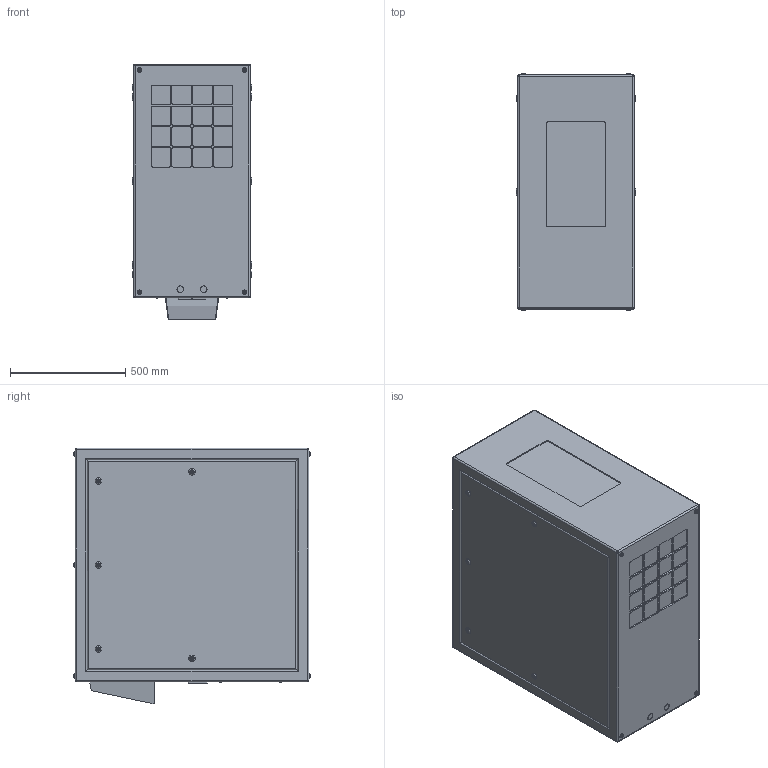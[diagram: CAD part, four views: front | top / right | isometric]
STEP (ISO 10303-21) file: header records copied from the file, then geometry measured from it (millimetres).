
FILE_DESCRIPTION (( 'STEP AP214' ), '1' );
FILE_NAME ('Cyclone 55.250.P R10.STEP', '2022-09-08T19:04:17', ( '' ), ( '' ), 'SwSTEP 2.0', 'SolidWorks 2020', '' );
FILE_SCHEMA (( 'AUTOMOTIVE_DESIGN' ));
Length unit declared in the file: inch
Products named in the file (1): Cyclone 55.250.P R10
Bounding box: 520.7 x 1030.6 x 1111.25 mm (x, y, z)
Volume: 522989917 mm3; surface area: 4625247.4 mm2
Topology: 1 solids, 7 shells, 576 faces, 1344 edges, 860 vertices
Faces by surface type: plane 272, cylinder 244, torus 52, sphere 8
Entity records: 21519 total; most frequent: CARTESIAN_POINT 3381, DIRECTION 2934, ORIENTED_EDGE 2672, EDGE_CURVE 1336, AXIS2_PLACEMENT_3D 1117, VERTEX_POINT 860, LINE 700, VECTOR 700
